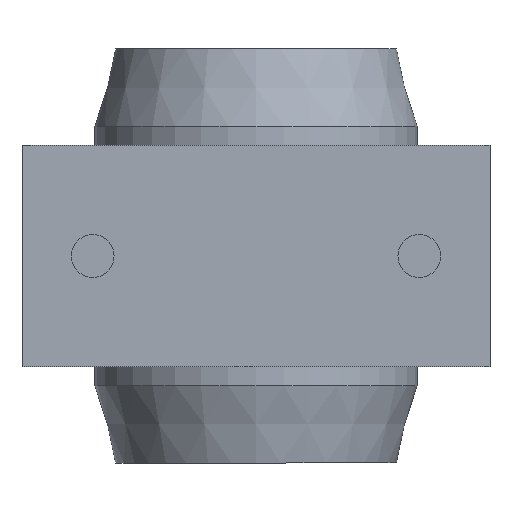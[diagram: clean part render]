
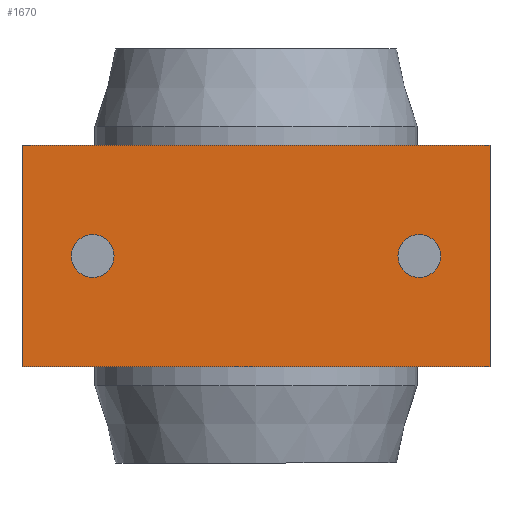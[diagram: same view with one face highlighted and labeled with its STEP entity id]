
A CAD part, front view. The second image highlights one B-rep face of the part: STEP entity #1670.
In plain terms, the highlighted planar face has unit normal (0, -1, 0).
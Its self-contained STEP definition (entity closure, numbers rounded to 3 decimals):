
#105=FACE_BOUND('',#300,.T.);
#106=FACE_BOUND('',#301,.T.);
#139=PLANE('',#1913);
#198=FACE_OUTER_BOUND('',#299,.T.);
#299=EDGE_LOOP('',(#1209,#1210,#1211,#1212));
#300=EDGE_LOOP('',(#1213,#1214));
#301=EDGE_LOOP('',(#1215,#1216));
#418=LINE('',#2757,#505);
#425=LINE('',#2773,#512);
#434=LINE('',#2808,#521);
#435=LINE('',#2810,#522);
#505=VECTOR('',#2165,10.);
#512=VECTOR('',#2178,10.);
#521=VECTOR('',#2221,10.);
#522=VECTOR('',#2224,10.);
#584=CIRCLE('',#1860,3.324);
#585=CIRCLE('',#1861,3.324);
#588=CIRCLE('',#1866,3.324);
#589=CIRCLE('',#1867,3.324);
#690=VERTEX_POINT('',#2686);
#691=VERTEX_POINT('',#2687);
#694=VERTEX_POINT('',#2697);
#695=VERTEX_POINT('',#2698);
#717=VERTEX_POINT('',#2754);
#718=VERTEX_POINT('',#2756);
#723=VERTEX_POINT('',#2770);
#724=VERTEX_POINT('',#2772);
#855=EDGE_CURVE('',#690,#691,#584,.T.);
#856=EDGE_CURVE('',#691,#690,#585,.T.);
#860=EDGE_CURVE('',#694,#695,#588,.T.);
#861=EDGE_CURVE('',#695,#694,#589,.T.);
#888=EDGE_CURVE('',#718,#717,#418,.T.);
#896=EDGE_CURVE('',#724,#723,#425,.T.);
#915=EDGE_CURVE('',#717,#724,#434,.T.);
#916=EDGE_CURVE('',#723,#718,#435,.T.);
#1209=ORIENTED_EDGE('',*,*,#915,.T.);
#1210=ORIENTED_EDGE('',*,*,#896,.T.);
#1211=ORIENTED_EDGE('',*,*,#916,.T.);
#1212=ORIENTED_EDGE('',*,*,#888,.T.);
#1213=ORIENTED_EDGE('',*,*,#855,.T.);
#1214=ORIENTED_EDGE('',*,*,#856,.T.);
#1215=ORIENTED_EDGE('',*,*,#860,.T.);
#1216=ORIENTED_EDGE('',*,*,#861,.T.);
#1670=ADVANCED_FACE('',(#198,#105,#106),#139,.F.);
#1860=AXIS2_PLACEMENT_3D('',#2688,#2091,#2092);
#1861=AXIS2_PLACEMENT_3D('',#2689,#2093,#2094);
#1866=AXIS2_PLACEMENT_3D('',#2699,#2104,#2105);
#1867=AXIS2_PLACEMENT_3D('',#2700,#2106,#2107);
#1913=AXIS2_PLACEMENT_3D('',#2811,#2225,#2226);
#2091=DIRECTION('center_axis',(0.,1.,0.));
#2092=DIRECTION('ref_axis',(-1.,0.,0.));
#2093=DIRECTION('center_axis',(0.,1.,0.));
#2094=DIRECTION('ref_axis',(-1.,0.,0.));
#2104=DIRECTION('center_axis',(0.,1.,0.));
#2105=DIRECTION('ref_axis',(-1.,0.,0.));
#2106=DIRECTION('center_axis',(0.,1.,0.));
#2107=DIRECTION('ref_axis',(-1.,0.,0.));
#2165=DIRECTION('',(1.,0.,0.));
#2178=DIRECTION('',(-1.,0.,0.));
#2221=DIRECTION('',(0.,0.,1.));
#2224=DIRECTION('',(0.,0.,-1.));
#2225=DIRECTION('center_axis',(0.,1.,0.));
#2226=DIRECTION('ref_axis',(0.,0.,1.));
#2686=CARTESIAN_POINT('',(-28.724,-33.3,0.));
#2687=CARTESIAN_POINT('',(-22.077,-33.3,0.));
#2688=CARTESIAN_POINT('Origin',(-25.4,-33.3,0.));
#2689=CARTESIAN_POINT('Origin',(-25.4,-33.3,0.));
#2697=CARTESIAN_POINT('',(22.077,-33.3,0.));
#2698=CARTESIAN_POINT('',(28.724,-33.3,0.));
#2699=CARTESIAN_POINT('Origin',(25.4,-33.3,0.));
#2700=CARTESIAN_POINT('Origin',(25.4,-33.3,0.));
#2754=CARTESIAN_POINT('',(36.4,-33.3,-17.25));
#2756=CARTESIAN_POINT('',(-36.4,-33.3,-17.25));
#2757=CARTESIAN_POINT('',(18.2,-33.3,-17.25));
#2770=CARTESIAN_POINT('',(-36.4,-33.3,17.25));
#2772=CARTESIAN_POINT('',(36.4,-33.3,17.25));
#2773=CARTESIAN_POINT('',(-18.2,-33.3,17.25));
#2808=CARTESIAN_POINT('',(36.4,-33.3,8.625));
#2810=CARTESIAN_POINT('',(-36.4,-33.3,-8.625));
#2811=CARTESIAN_POINT('Origin',(0.,-33.3,0.));
